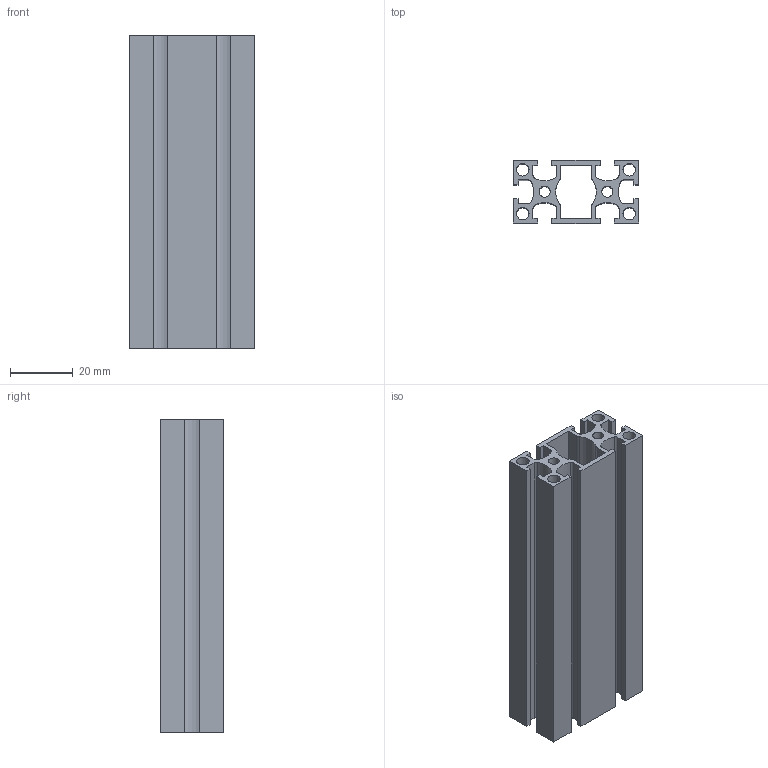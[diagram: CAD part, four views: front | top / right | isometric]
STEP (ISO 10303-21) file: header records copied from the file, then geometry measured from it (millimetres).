
FILE_DESCRIPTION(/* description */ (''),/* implementation_level */ '2;1');
FILE_NAME(/* name */ 'C:\Users\Owner\Documents\硯聰\Inv材料庫-自訂\AM\AM4\AM4-2040_100L.stp',/* time_stamp */ '2019-02-20T14:29:02+08:00',/* author */ ('Owner'),/* organization */ (''),/* preprocessor_version */ 'ST-DEVELOPER v16.1',/* originating_system */ 'Autodesk Inventor 2016',/* authorisation */ '');
FILE_SCHEMA (('AUTOMOTIVE_DESIGN { 1 0 10303 214 3 1 1 }'));
Length unit declared in the file: millimetre
Products named in the file (1): AM4-2040_100L
Bounding box: 40 x 20 x 100 mm (x, y, z)
Volume: 29551.4 mm3; surface area: 35495.3 mm2
Topology: 1 solids, 1 shells, 84 faces, 246 edges, 164 vertices
Faces by surface type: plane 54, cylinder 30
Full cylindrical faces by diameter (mm): 3.5 x2, 4 x4
Entity records: 2812 total; most frequent: CARTESIAN_POINT 489, ORIENTED_EDGE 480, DIRECTION 470, EDGE_CURVE 240, LINE 180, VECTOR 180, VERTEX_POINT 164, AXIS2_PLACEMENT_3D 145
